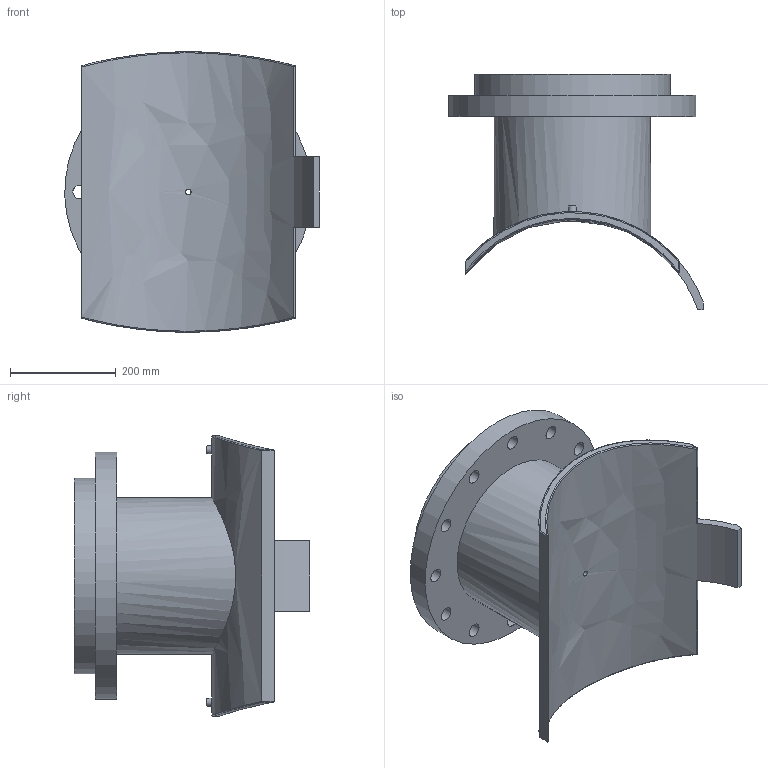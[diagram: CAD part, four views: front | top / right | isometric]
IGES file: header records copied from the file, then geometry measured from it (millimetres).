
Global section: file name: 495903500300T; native system: Autodesk Inventor 2019; preprocessor: unknown; author: KIM; date: 20240403.210439; units: millimetre
Bounding box: 480.88 x 445.3 x 529.98 mm (x, y, z)
Volume: 13883767.4 mm3; surface area: 1298667 mm2
Topology: 1 solids, 1 shells, 62 faces, 163 edges, 126 vertices
Faces by surface type: bspline 62
